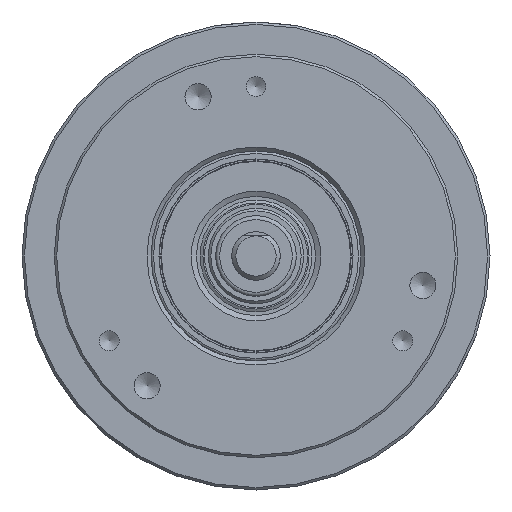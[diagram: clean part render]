
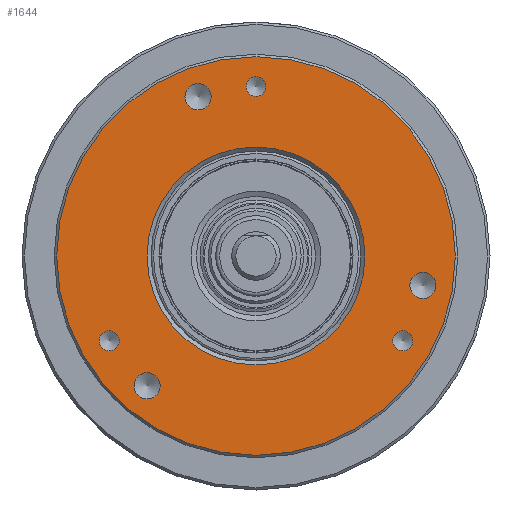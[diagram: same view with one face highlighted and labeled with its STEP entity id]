
A CAD part, left-side view. The second image highlights one B-rep face of the part: STEP entity #1644.
In plain terms, the highlighted planar face has unit normal (-1, 0, 0).
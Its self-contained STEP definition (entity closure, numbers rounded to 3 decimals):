
#1644 = ADVANCED_FACE( '', ( #3744, #3745, #3746, #3747, #3748, #3749, #3750, #3751 ), #3752, .T. );
#3744 = FACE_OUTER_BOUND( '', #14086, .T. );
#3745 = FACE_BOUND( '', #14087, .T. );
#3746 = FACE_BOUND( '', #14088, .T. );
#3747 = FACE_BOUND( '', #14089, .T. );
#3748 = FACE_BOUND( '', #14090, .T. );
#3749 = FACE_BOUND( '', #14091, .T. );
#3750 = FACE_BOUND( '', #14092, .T. );
#3751 = FACE_BOUND( '', #14093, .T. );
#3752 = PLANE( '', #14094 );
#14086 = EDGE_LOOP( '', ( #24050 ) );
#14087 = EDGE_LOOP( '', ( #24051 ) );
#14088 = EDGE_LOOP( '', ( #24052 ) );
#14089 = EDGE_LOOP( '', ( #24053 ) );
#14090 = EDGE_LOOP( '', ( #24054 ) );
#14091 = EDGE_LOOP( '', ( #24055 ) );
#14092 = EDGE_LOOP( '', ( #24056 ) );
#14093 = EDGE_LOOP( '', ( #24057 ) );
#14094 = AXIS2_PLACEMENT_3D( '', #24058, #24059, #24060 );
#24050 = ORIENTED_EDGE( '', *, *, #28439, .F. );
#24051 = ORIENTED_EDGE( '', *, *, #27518, .T. );
#24052 = ORIENTED_EDGE( '', *, *, #28440, .T. );
#24053 = ORIENTED_EDGE( '', *, *, #28441, .T. );
#24054 = ORIENTED_EDGE( '', *, *, #28442, .T. );
#24055 = ORIENTED_EDGE( '', *, *, #27243, .T. );
#24056 = ORIENTED_EDGE( '', *, *, #28443, .T. );
#24057 = ORIENTED_EDGE( '', *, *, #28034, .T. );
#24058 = CARTESIAN_POINT( '', ( 0., 16.541, -9.55 ) );
#24059 = DIRECTION( '', ( -1., 0., 0. ) );
#24060 = DIRECTION( '', ( 0., 0., 1. ) );
#27243 = EDGE_CURVE( '', #30038, #30038, #30039, .T. );
#27518 = EDGE_CURVE( '', #30494, #30494, #30495, .T. );
#28034 = EDGE_CURVE( '', #31258, #31258, #31259, .T. );
#28439 = EDGE_CURVE( '', #31799, #31799, #31800, .T. );
#28440 = EDGE_CURVE( '', #31801, #31801, #31802, .T. );
#28441 = EDGE_CURVE( '', #31803, #31803, #31804, .T. );
#28442 = EDGE_CURVE( '', #31805, #31805, #31806, .T. );
#28443 = EDGE_CURVE( '', #31807, #31807, #31808, .T. );
#30038 = VERTEX_POINT( '', #35344 );
#30039 = CIRCLE( '', #35345, 1.62 );
#30494 = VERTEX_POINT( '', #36825 );
#30495 = CIRCLE( '', #36826, 1.23 );
#31258 = VERTEX_POINT( '', #39355 );
#31259 = CIRCLE( '', #39356, 13.5 );
#31799 = VERTEX_POINT( '', #47755 );
#31800 = CIRCLE( '', #47756, 24.7 );
#31801 = VERTEX_POINT( '', #47757 );
#31802 = CIRCLE( '', #47758, 1.23 );
#31803 = VERTEX_POINT( '', #47759 );
#31804 = CIRCLE( '', #47760, 1.23 );
#31805 = VERTEX_POINT( '', #47761 );
#31806 = CIRCLE( '', #47762, 1.62 );
#31807 = VERTEX_POINT( '', #47763 );
#31808 = CIRCLE( '', #47764, 1.62 );
#35344 = CARTESIAN_POINT( '', ( 0., 5.779, 20.544 ) );
#35345 = AXIS2_PLACEMENT_3D( '', #50489, #50490, #50491 );
#36825 = CARTESIAN_POINT( '', ( 0., -1.065, 21.615 ) );
#36826 = AXIS2_PLACEMENT_3D( '', #50726, #50727, #50728 );
#39355 = CARTESIAN_POINT( '', ( 0., 11.691, -6.75 ) );
#39356 = AXIS2_PLACEMENT_3D( '', #51143, #51144, #51145 );
#47755 = CARTESIAN_POINT( '', ( 0., 21.391, -12.35 ) );
#47756 = AXIS2_PLACEMENT_3D( '', #51437, #51438, #51439 );
#47757 = CARTESIAN_POINT( '', ( 0., -19.252, -9.885 ) );
#47758 = AXIS2_PLACEMENT_3D( '', #51440, #51441, #51442 );
#47759 = CARTESIAN_POINT( '', ( 0., 17.121, -9.885 ) );
#47760 = AXIS2_PLACEMENT_3D( '', #51443, #51444, #51445 );
#47761 = CARTESIAN_POINT( '', ( 0., 12.095, -15.277 ) );
#47762 = AXIS2_PLACEMENT_3D( '', #51446, #51447, #51448 );
#47763 = CARTESIAN_POINT( '', ( 0., -22.084, -2.837 ) );
#47764 = AXIS2_PLACEMENT_3D( '', #51449, #51450, #51451 );
#50489 = CARTESIAN_POINT( '', ( 0., 7.182, 19.734 ) );
#50490 = DIRECTION( '', ( 1., 0., 0. ) );
#50491 = DIRECTION( '', ( 0., -0.866, 0.5 ) );
#50726 = CARTESIAN_POINT( '', ( 0., 0., 21. ) );
#50727 = DIRECTION( '', ( 1., 0., 0. ) );
#50728 = DIRECTION( '', ( 0., -0.866, 0.5 ) );
#51143 = CARTESIAN_POINT( '', ( 0., 0., 0. ) );
#51144 = DIRECTION( '', ( 1., 0., 0. ) );
#51145 = DIRECTION( '', ( 0., 0.866, -0.5 ) );
#51437 = CARTESIAN_POINT( '', ( 0., 0., 0. ) );
#51438 = DIRECTION( '', ( 1., 0., 0. ) );
#51439 = DIRECTION( '', ( 0., 0.866, -0.5 ) );
#51440 = CARTESIAN_POINT( '', ( 0., -18.187, -10.5 ) );
#51441 = DIRECTION( '', ( 1., 0., 0. ) );
#51442 = DIRECTION( '', ( 0., -0.866, 0.5 ) );
#51443 = CARTESIAN_POINT( '', ( 0., 18.187, -10.5 ) );
#51444 = DIRECTION( '', ( 1., 0., 0. ) );
#51445 = DIRECTION( '', ( 0., -0.866, 0.5 ) );
#51446 = CARTESIAN_POINT( '', ( 0., 13.499, -16.087 ) );
#51447 = DIRECTION( '', ( 1., 0., 0. ) );
#51448 = DIRECTION( '', ( 0., -0.866, 0.5 ) );
#51449 = CARTESIAN_POINT( '', ( 0., -20.681, -3.647 ) );
#51450 = DIRECTION( '', ( 1., 0., 0. ) );
#51451 = DIRECTION( '', ( 0., -0.866, 0.5 ) );
